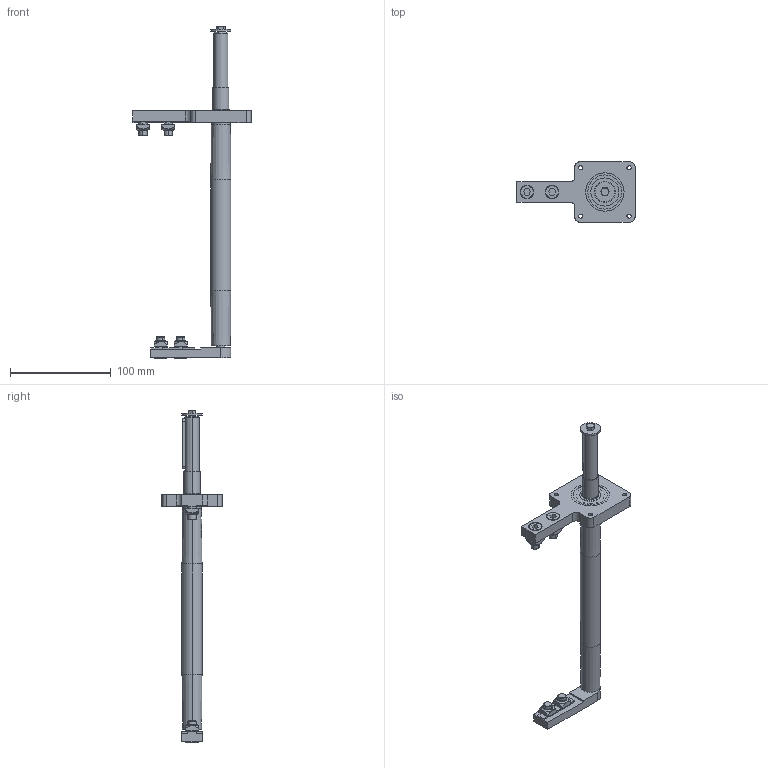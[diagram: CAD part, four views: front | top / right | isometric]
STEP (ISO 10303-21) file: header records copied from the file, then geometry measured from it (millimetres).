
FILE_DESCRIPTION (( 'STEP AP214' ), '1' );
FILE_NAME ('084.020.KD.30.200.STEP', '2020-02-25T16:12:03', ( '' ), ( '' ), 'SwSTEP 2.0', 'SolidWorks 2018', '' );
FILE_SCHEMA (( 'AUTOMOTIVE_DESIGN' ));
Length unit declared in the file: millimetre
Products named in the file (15): RONDELLE FASCIA LARGA UNI 6593_5.4x20 UNI 6593; 084.020.KD.30.200; 084.301.000 VITI ALUSIC_084.301.003; 084.800.012; 084.800.002; circlip for shafts normal_din_PreviewCfg; 084.800.025; 084.800.007; 084.301.000 VITI ALUSIC_084.301.002; 084.800.008; 084.800.001-1; 084.802.016_084.802.016; CHIAVETTE_A 5x5x50 UNI 6604-69; VITI TE UNI 5739_M5x16 UNI 5739; 084.302.000 DADI ALUSIC 13x13-1_084.302.004
Assembly tree (20 placements, depth 2):
  084.020.KD.30.200
    084.800.025
    084.800.001-1
    084.802.016_084.802.016
    084.301.000 VITI ALUSIC_084.301.003  x2
    084.302.000 DADI ALUSIC 13x13-1_084.302.004  x4
    084.800.012  x2
    084.800.008
    084.800.002
    084.800.007
    084.301.000 VITI ALUSIC_084.301.002  x2
    CHIAVETTE_A 5x5x50 UNI 6604-69
    circlip for shafts normal_din_PreviewCfg
    RONDELLE FASCIA LARGA UNI 6593_5.4x20 UNI 6593
    VITI TE UNI 5739_M5x16 UNI 5739
Bounding box: 117.5 x 60 x 330.23 mm (x, y, z)
Volume: 149929.1 mm3; surface area: 62571.5 mm2
Topology: 21 solids, 22 shells, 485 faces, 1150 edges, 731 vertices
Faces by surface type: plane 175, cylinder 174, torus 74, cone 42, bspline 16, sphere 4
Entity records: 11216 total; most frequent: CARTESIAN_POINT 2185, DIRECTION 1871, ORIENTED_EDGE 1602, EDGE_CURVE 801, AXIS2_PLACEMENT_3D 756, VERTEX_POINT 512, EDGE_LOOP 401, CIRCLE 394
